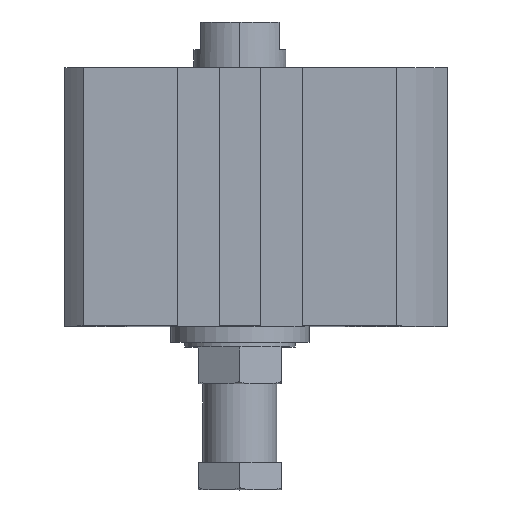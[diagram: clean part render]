
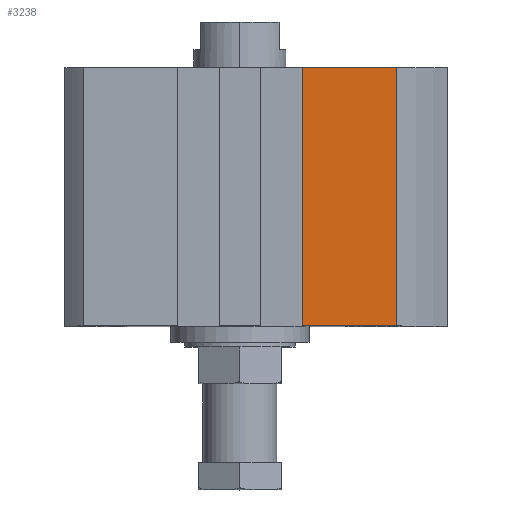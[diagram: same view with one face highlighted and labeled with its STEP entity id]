
A CAD part, top view. The second image highlights one B-rep face of the part: STEP entity #3238.
In plain terms, the highlighted planar face has unit normal (0, 0, 1).
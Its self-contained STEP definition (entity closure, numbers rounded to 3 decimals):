
#40 = VECTOR ( 'NONE', #2430, 1000. ) ;
#64 = VECTOR ( 'NONE', #3260, 1000. ) ;
#373 = ORIENTED_EDGE ( 'NONE', *, *, #604, .F. ) ;
#375 = DIRECTION ( 'NONE',  ( 0., 1., 0. ) ) ;
#466 = LINE ( 'NONE', #2242, #1515 ) ;
#505 = DIRECTION ( 'NONE',  ( 1., 0., 0. ) ) ;
#604 = EDGE_CURVE ( 'NONE', #663, #3090, #1062, .T. ) ;
#663 = VERTEX_POINT ( 'NONE', #692 ) ;
#692 = CARTESIAN_POINT ( 'NONE',  ( 13.5, 0., 38. ) ) ;
#897 = ORIENTED_EDGE ( 'NONE', *, *, #3655, .T. ) ;
#1062 = LINE ( 'NONE', #2171, #64 ) ;
#1176 = PLANE ( 'NONE',  #2838 ) ;
#1279 = VERTEX_POINT ( 'NONE', #3873 ) ;
#1515 = VECTOR ( 'NONE', #375, 1000. ) ;
#1537 = EDGE_CURVE ( 'NONE', #1698, #663, #466, .T. ) ;
#1543 = EDGE_LOOP ( 'NONE', ( #373, #3656, #897, #2466 ) ) ;
#1547 = CARTESIAN_POINT ( 'NONE',  ( 0., -56., 38. ) ) ;
#1555 = FACE_OUTER_BOUND ( 'NONE', #1543, .T. ) ;
#1698 = VERTEX_POINT ( 'NONE', #3779 ) ;
#2132 = DIRECTION ( 'NONE',  ( 1., 0., 0. ) ) ;
#2171 = CARTESIAN_POINT ( 'NONE',  ( 0., 0., 38. ) ) ;
#2242 = CARTESIAN_POINT ( 'NONE',  ( 13.5, -56., 38. ) ) ;
#2430 = DIRECTION ( 'NONE',  ( 0., 1., 0. ) ) ;
#2466 = ORIENTED_EDGE ( 'NONE', *, *, #3030, .T. ) ;
#2745 = DIRECTION ( 'NONE',  ( 0., 0., 1. ) ) ;
#2838 = AXIS2_PLACEMENT_3D ( 'NONE', #1547, #2745, #505 ) ;
#3005 = LINE ( 'NONE', #4227, #40 ) ;
#3030 = EDGE_CURVE ( 'NONE', #1279, #3090, #3005, .T. ) ;
#3090 = VERTEX_POINT ( 'NONE', #3269 ) ;
#3238 = ADVANCED_FACE ( 'NONE', ( #1555 ), #1176, .T. ) ;
#3260 = DIRECTION ( 'NONE',  ( 1., 0., 0. ) ) ;
#3269 = CARTESIAN_POINT ( 'NONE',  ( 34.015, 0., 38. ) ) ;
#3655 = EDGE_CURVE ( 'NONE', #1698, #1279, #3948, .T. ) ;
#3656 = ORIENTED_EDGE ( 'NONE', *, *, #1537, .F. ) ;
#3779 = CARTESIAN_POINT ( 'NONE',  ( 13.5, -56., 38. ) ) ;
#3873 = CARTESIAN_POINT ( 'NONE',  ( 34.015, -56., 38. ) ) ;
#3948 = LINE ( 'NONE', #4627, #4173 ) ;
#4173 = VECTOR ( 'NONE', #2132, 1000. ) ;
#4227 = CARTESIAN_POINT ( 'NONE',  ( 34.015, -56., 38. ) ) ;
#4627 = CARTESIAN_POINT ( 'NONE',  ( 0., -56., 38. ) ) ;
